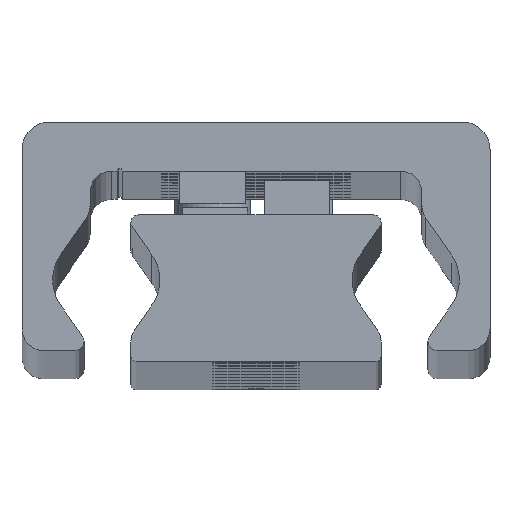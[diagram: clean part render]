
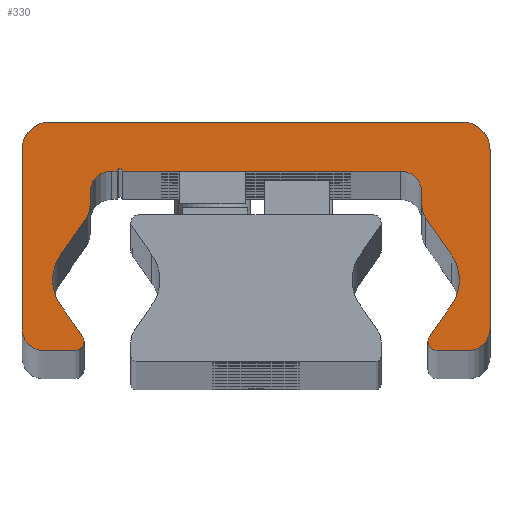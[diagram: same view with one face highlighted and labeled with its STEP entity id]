
A CAD part, top view. The second image highlights one B-rep face of the part: STEP entity #330.
In plain terms, the highlighted planar face has unit normal (0, 0, 1).
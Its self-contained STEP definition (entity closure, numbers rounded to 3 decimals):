
#330=ADVANCED_FACE('',(#944),#945,.T.);
#944=FACE_OUTER_BOUND('',#1559,.T.);
#945=PLANE('',#1560);
#1559=EDGE_LOOP('',(#3618,#3619,#3620,#3621,#3622,#3623,#3624,#3625,#3626,#3627,#3628,#3629,#3630,#3631,#3632,#3633,#3634,#3635,#3636,#3637,#3638,#3639,#3640,#3641,#3642,#3643,#3644,#3645,#3646,#3647));
#1560=AXIS2_PLACEMENT_3D('',#3648,#3649,#3650);
#3618=ORIENTED_EDGE('',*,*,#4049,.F.);
#3619=ORIENTED_EDGE('',*,*,#4342,.F.);
#3620=ORIENTED_EDGE('',*,*,#4035,.F.);
#3621=ORIENTED_EDGE('',*,*,#4341,.F.);
#3622=ORIENTED_EDGE('',*,*,#4337,.F.);
#3623=ORIENTED_EDGE('',*,*,#4334,.F.);
#3624=ORIENTED_EDGE('',*,*,#4331,.F.);
#3625=ORIENTED_EDGE('',*,*,#4328,.F.);
#3626=ORIENTED_EDGE('',*,*,#4325,.F.);
#3627=ORIENTED_EDGE('',*,*,#4322,.F.);
#3628=ORIENTED_EDGE('',*,*,#4319,.F.);
#3629=ORIENTED_EDGE('',*,*,#4316,.F.);
#3630=ORIENTED_EDGE('',*,*,#4313,.F.);
#3631=ORIENTED_EDGE('',*,*,#4310,.F.);
#3632=ORIENTED_EDGE('',*,*,#4041,.F.);
#3633=ORIENTED_EDGE('',*,*,#4308,.F.);
#3634=ORIENTED_EDGE('',*,*,#4043,.F.);
#3635=ORIENTED_EDGE('',*,*,#4307,.F.);
#3636=ORIENTED_EDGE('',*,*,#4303,.F.);
#3637=ORIENTED_EDGE('',*,*,#4300,.F.);
#3638=ORIENTED_EDGE('',*,*,#4297,.F.);
#3639=ORIENTED_EDGE('',*,*,#4294,.F.);
#3640=ORIENTED_EDGE('',*,*,#4291,.F.);
#3641=ORIENTED_EDGE('',*,*,#4288,.F.);
#3642=ORIENTED_EDGE('',*,*,#4285,.F.);
#3643=ORIENTED_EDGE('',*,*,#4282,.F.);
#3644=ORIENTED_EDGE('',*,*,#4279,.F.);
#3645=ORIENTED_EDGE('',*,*,#4276,.F.);
#3646=ORIENTED_EDGE('',*,*,#4273,.F.);
#3647=ORIENTED_EDGE('',*,*,#4270,.F.);
#3648=CARTESIAN_POINT('',(-0.023,14.187,1490.0));
#3649=DIRECTION('',(0.0,0.0,1.0));
#3650=DIRECTION('',(1.0,0.0,0.0));
#4035=EDGE_CURVE('',#4902,#4905,#4906,.T.);
#4041=EDGE_CURVE('',#4915,#4911,#4917,.T.);
#4043=EDGE_CURVE('',#4918,#4921,#4922,.T.);
#4049=EDGE_CURVE('',#4931,#4927,#4933,.T.);
#4270=EDGE_CURVE('',#4927,#5288,#5289,.T.);
#4273=EDGE_CURVE('',#5288,#5293,#5294,.T.);
#4276=EDGE_CURVE('',#5293,#5298,#5299,.T.);
#4279=EDGE_CURVE('',#5298,#5303,#5304,.T.);
#4282=EDGE_CURVE('',#5303,#5308,#5309,.T.);
#4285=EDGE_CURVE('',#5308,#5313,#5314,.T.);
#4288=EDGE_CURVE('',#5313,#5318,#5319,.T.);
#4291=EDGE_CURVE('',#5318,#5323,#5324,.T.);
#4294=EDGE_CURVE('',#5323,#5328,#5329,.T.);
#4297=EDGE_CURVE('',#5328,#5333,#5334,.T.);
#4300=EDGE_CURVE('',#5333,#5338,#5339,.T.);
#4303=EDGE_CURVE('',#5338,#5343,#5344,.T.);
#4307=EDGE_CURVE('',#5343,#4918,#5349,.T.);
#4308=EDGE_CURVE('',#4921,#4915,#5350,.T.);
#4310=EDGE_CURVE('',#4911,#5352,#5353,.T.);
#4313=EDGE_CURVE('',#5352,#5357,#5358,.T.);
#4316=EDGE_CURVE('',#5357,#5362,#5363,.T.);
#4319=EDGE_CURVE('',#5362,#5367,#5368,.T.);
#4322=EDGE_CURVE('',#5367,#5372,#5373,.T.);
#4325=EDGE_CURVE('',#5372,#5377,#5378,.T.);
#4328=EDGE_CURVE('',#5377,#5382,#5383,.T.);
#4331=EDGE_CURVE('',#5382,#5387,#5388,.T.);
#4334=EDGE_CURVE('',#5387,#5392,#5393,.T.);
#4337=EDGE_CURVE('',#5392,#5397,#5398,.T.);
#4341=EDGE_CURVE('',#5397,#4902,#5403,.T.);
#4342=EDGE_CURVE('',#4905,#4931,#5404,.T.);
#4902=VERTEX_POINT('',#6138);
#4905=VERTEX_POINT('',#6142);
#4906=CIRCLE('',#6143,0.85);
#4911=VERTEX_POINT('',#6149);
#4915=VERTEX_POINT('',#6154);
#4917=CIRCLE('',#6157,0.85);
#4918=VERTEX_POINT('',#6158);
#4921=VERTEX_POINT('',#6162);
#4922=CIRCLE('',#6163,4.);
#4927=VERTEX_POINT('',#6169);
#4931=VERTEX_POINT('',#6174);
#4933=CIRCLE('',#6177,4.);
#5288=VERTEX_POINT('',#6634);
#5289=CIRCLE('',#6635,4.);
#5293=VERTEX_POINT('',#6640);
#5294=LINE('',#6641,#6642);
#5298=VERTEX_POINT('',#6648);
#5299=CIRCLE('',#6649,2.);
#5303=VERTEX_POINT('',#6654);
#5304=LINE('',#6655,#6656);
#5308=VERTEX_POINT('',#6662);
#5309=CIRCLE('',#6663,2.0);
#5313=VERTEX_POINT('',#6668);
#5314=LINE('',#6669,#6670);
#5318=VERTEX_POINT('',#6676);
#5319=CIRCLE('',#6677,0.25);
#5323=VERTEX_POINT('',#6682);
#5324=LINE('',#6683,#6684);
#5328=VERTEX_POINT('',#6690);
#5329=CIRCLE('',#6691,2.0);
#5333=VERTEX_POINT('',#6696);
#5334=LINE('',#6697,#6698);
#5338=VERTEX_POINT('',#6704);
#5339=CIRCLE('',#6705,2.0);
#5343=VERTEX_POINT('',#6710);
#5344=LINE('',#6711,#6712);
#5349=CIRCLE('',#6719,4.);
#5350=LINE('',#6720,#6721);
#5352=VERTEX_POINT('',#6724);
#5353=CIRCLE('',#6725,0.85);
#5357=VERTEX_POINT('',#6730);
#5358=LINE('',#6731,#6732);
#5362=VERTEX_POINT('',#6738);
#5363=CIRCLE('',#6739,2.);
#5367=VERTEX_POINT('',#6744);
#5368=LINE('',#6745,#6746);
#5372=VERTEX_POINT('',#6752);
#5373=CIRCLE('',#6753,2.5);
#5377=VERTEX_POINT('',#6758);
#5378=LINE('',#6759,#6760);
#5382=VERTEX_POINT('',#6766);
#5383=CIRCLE('',#6767,2.5);
#5387=VERTEX_POINT('',#6772);
#5388=LINE('',#6773,#6774);
#5392=VERTEX_POINT('',#6780);
#5393=CIRCLE('',#6781,2.);
#5397=VERTEX_POINT('',#6786);
#5398=LINE('',#6787,#6788);
#5403=CIRCLE('',#6795,0.85);
#5404=LINE('',#6796,#6797);
#6138=CARTESIAN_POINT('',(15.8,1.859,1490.0));
#6142=CARTESIAN_POINT('',(15.922,2.298,1490.0));
#6143=AXIS2_PLACEMENT_3D('',#7503,#7504,#7505);
#6149=CARTESIAN_POINT('',(-15.8,1.859,1490.0));
#6154=CARTESIAN_POINT('',(-15.922,2.298,1490.0));
#6157=AXIS2_PLACEMENT_3D('',#7515,#7516,#7517);
#6158=CARTESIAN_POINT('',(-18.688,7.509,1490.0));
#6162=CARTESIAN_POINT('',(-17.964,5.214,1490.0));
#6163=AXIS2_PLACEMENT_3D('',#7519,#7520,#7521);
#6169=CARTESIAN_POINT('',(18.688,7.509,1490.0));
#6174=CARTESIAN_POINT('',(17.964,5.214,1490.0));
#6177=AXIS2_PLACEMENT_3D('',#7531,#7532,#7533);
#6634=CARTESIAN_POINT('',(17.964,9.803,1490.0));
#6635=AXIS2_PLACEMENT_3D('',#7990,#7991,#7992);
#6640=CARTESIAN_POINT('',(15.612,13.163,1490.0));
#6641=CARTESIAN_POINT('',(15.612,13.163,1490.0));
#6642=VECTOR('',#7997,1.0);
#6648=CARTESIAN_POINT('',(15.25,14.31,1490.0));
#6649=AXIS2_PLACEMENT_3D('',#8000,#8001,#8002);
#6654=CARTESIAN_POINT('',(15.25,15.509,1490.0));
#6655=CARTESIAN_POINT('',(15.25,15.509,1490.0));
#6656=VECTOR('',#8007,1.0);
#6662=CARTESIAN_POINT('',(13.25,17.509,1490.0));
#6663=AXIS2_PLACEMENT_3D('',#8010,#8011,#8012);
#6668=CARTESIAN_POINT('',(-12.25,17.509,1490.0));
#6669=CARTESIAN_POINT('',(-12.25,17.509,1490.0));
#6670=VECTOR('',#8017,1.0);
#6676=CARTESIAN_POINT('',(-12.75,17.509,1490.0));
#6677=AXIS2_PLACEMENT_3D('',#8020,#8021,#8022);
#6682=CARTESIAN_POINT('',(-13.25,17.509,1490.0));
#6683=CARTESIAN_POINT('',(-13.25,17.509,1490.0));
#6684=VECTOR('',#8027,1.0);
#6690=CARTESIAN_POINT('',(-15.25,15.509,1490.0));
#6691=AXIS2_PLACEMENT_3D('',#8030,#8031,#8032);
#6696=CARTESIAN_POINT('',(-15.25,14.31,1490.0));
#6697=CARTESIAN_POINT('',(-15.25,14.31,1490.0));
#6698=VECTOR('',#8037,1.0);
#6704=CARTESIAN_POINT('',(-15.612,13.163,1490.0));
#6705=AXIS2_PLACEMENT_3D('',#8040,#8041,#8042);
#6710=CARTESIAN_POINT('',(-17.964,9.803,1490.0));
#6711=CARTESIAN_POINT('',(-17.964,9.803,1490.0));
#6712=VECTOR('',#8047,1.0);
#6719=AXIS2_PLACEMENT_3D('',#8053,#8054,#8055);
#6720=CARTESIAN_POINT('',(-15.922,2.298,1490.0));
#6721=VECTOR('',#8056,1.0);
#6724=CARTESIAN_POINT('',(-16.65,1.009,1490.0));
#6725=AXIS2_PLACEMENT_3D('',#8058,#8059,#8060);
#6730=CARTESIAN_POINT('',(-19.5,1.009,1490.0));
#6731=CARTESIAN_POINT('',(-19.5,1.009,1490.0));
#6732=VECTOR('',#8065,1.0);
#6738=CARTESIAN_POINT('',(-21.5,3.009,1490.0));
#6739=AXIS2_PLACEMENT_3D('',#8068,#8069,#8070);
#6744=CARTESIAN_POINT('',(-21.5,19.509,1490.0));
#6745=CARTESIAN_POINT('',(-21.5,19.509,1490.0));
#6746=VECTOR('',#8075,1.0);
#6752=CARTESIAN_POINT('',(-19.0,22.009,1490.0));
#6753=AXIS2_PLACEMENT_3D('',#8078,#8079,#8080);
#6758=CARTESIAN_POINT('',(19.0,22.009,1490.0));
#6759=CARTESIAN_POINT('',(19.0,22.009,1490.0));
#6760=VECTOR('',#8085,1.0);
#6766=CARTESIAN_POINT('',(21.5,19.509,1490.0));
#6767=AXIS2_PLACEMENT_3D('',#8088,#8089,#8090);
#6772=CARTESIAN_POINT('',(21.5,3.009,1490.0));
#6773=CARTESIAN_POINT('',(21.5,3.009,1490.0));
#6774=VECTOR('',#8095,1.0);
#6780=CARTESIAN_POINT('',(19.5,1.009,1490.0));
#6781=AXIS2_PLACEMENT_3D('',#8098,#8099,#8100);
#6786=CARTESIAN_POINT('',(16.65,1.009,1490.0));
#6787=CARTESIAN_POINT('',(16.65,1.009,1490.0));
#6788=VECTOR('',#8105,1.0);
#6795=AXIS2_PLACEMENT_3D('',#8111,#8112,#8113);
#6796=CARTESIAN_POINT('',(17.964,5.214,1490.0));
#6797=VECTOR('',#8114,1.0);
#7503=CARTESIAN_POINT('',(16.65,1.859,1490.0));
#7504=DIRECTION('',(0.0,0.0,-1.0));
#7505=DIRECTION('',(1.0,0.0,0.0));
#7515=CARTESIAN_POINT('',(-16.65,1.859,1490.0));
#7516=DIRECTION('',(0.0,0.0,-1.0));
#7517=DIRECTION('',(1.0,0.0,0.0));
#7519=CARTESIAN_POINT('',(-14.688,7.509,1490.0));
#7520=DIRECTION('',(0.0,0.0,1.0));
#7521=DIRECTION('',(1.0,0.0,0.0));
#7531=CARTESIAN_POINT('',(14.688,7.509,1490.0));
#7532=DIRECTION('',(0.0,0.0,1.0));
#7533=DIRECTION('',(1.0,0.0,0.0));
#7990=CARTESIAN_POINT('',(14.688,7.509,1490.0));
#7991=DIRECTION('',(0.0,0.0,1.0));
#7992=DIRECTION('',(1.0,0.0,0.0));
#7997=DIRECTION('',(-0.574,0.819,0.0));
#8000=CARTESIAN_POINT('',(17.25,14.31,1490.0));
#8001=DIRECTION('',(0.0,0.0,-1.0));
#8002=DIRECTION('',(1.0,0.0,0.0));
#8007=DIRECTION('',(0.0,1.0,0.0));
#8010=CARTESIAN_POINT('',(13.25,15.509,1490.0));
#8011=DIRECTION('',(0.0,0.0,1.0));
#8012=DIRECTION('',(1.0,0.0,0.0));
#8017=DIRECTION('',(-1.0,-0.0,-0.0));
#8020=CARTESIAN_POINT('',(-12.5,17.509,1490.0));
#8021=DIRECTION('',(0.0,0.0,1.0));
#8022=DIRECTION('',(1.0,0.0,0.0));
#8027=DIRECTION('',(-1.0,-0.0,-0.0));
#8030=CARTESIAN_POINT('',(-13.25,15.509,1490.0));
#8031=DIRECTION('',(0.0,0.0,1.0));
#8032=DIRECTION('',(1.0,0.0,0.0));
#8037=DIRECTION('',(-0.0,-1.0,-0.0));
#8040=CARTESIAN_POINT('',(-17.25,14.31,1490.0));
#8041=DIRECTION('',(0.0,0.0,-1.0));
#8042=DIRECTION('',(1.0,0.0,0.0));
#8047=DIRECTION('',(-0.574,-0.819,-0.0));
#8053=CARTESIAN_POINT('',(-14.688,7.509,1490.0));
#8054=DIRECTION('',(0.0,0.0,1.0));
#8055=DIRECTION('',(1.0,0.0,0.0));
#8056=DIRECTION('',(0.574,-0.819,0.0));
#8058=CARTESIAN_POINT('',(-16.65,1.859,1490.0));
#8059=DIRECTION('',(0.0,0.0,-1.0));
#8060=DIRECTION('',(1.0,0.0,0.0));
#8065=DIRECTION('',(-1.0,-0.0,-0.0));
#8068=CARTESIAN_POINT('',(-19.5,3.009,1490.0));
#8069=DIRECTION('',(0.0,0.0,-1.0));
#8070=DIRECTION('',(1.0,0.0,0.0));
#8075=DIRECTION('',(0.0,1.0,0.0));
#8078=CARTESIAN_POINT('',(-19.0,19.509,1490.0));
#8079=DIRECTION('',(0.0,0.0,-1.0));
#8080=DIRECTION('',(1.0,0.0,0.0));
#8085=DIRECTION('',(1.0,0.0,0.0));
#8088=CARTESIAN_POINT('',(19.0,19.509,1490.0));
#8089=DIRECTION('',(0.0,0.0,-1.0));
#8090=DIRECTION('',(1.0,0.0,0.0));
#8095=DIRECTION('',(-0.0,-1.0,-0.0));
#8098=CARTESIAN_POINT('',(19.5,3.009,1490.0));
#8099=DIRECTION('',(0.0,0.0,-1.0));
#8100=DIRECTION('',(1.0,0.0,0.0));
#8105=DIRECTION('',(-1.0,-0.0,-0.0));
#8111=CARTESIAN_POINT('',(16.65,1.859,1490.0));
#8112=DIRECTION('',(0.0,0.0,-1.0));
#8113=DIRECTION('',(1.0,0.0,0.0));
#8114=DIRECTION('',(0.574,0.819,0.0));
